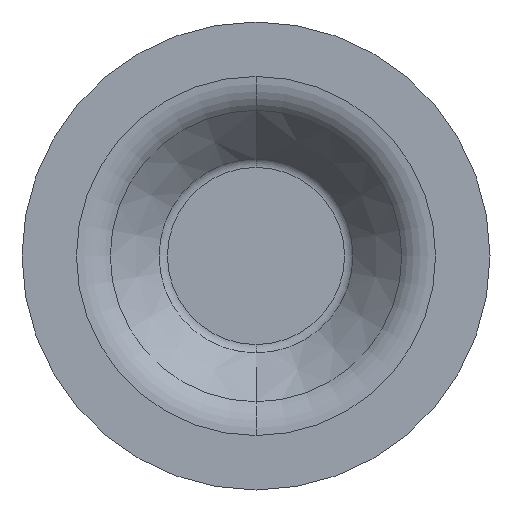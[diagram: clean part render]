
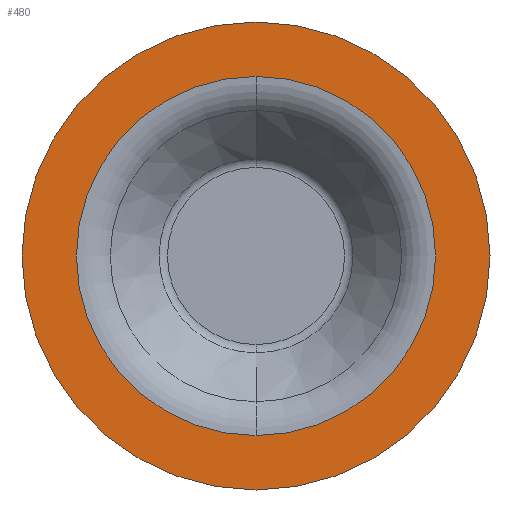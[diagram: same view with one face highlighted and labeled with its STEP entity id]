
A CAD part, front view. The second image highlights one B-rep face of the part: STEP entity #480.
In plain terms, the highlighted planar face has unit normal (0, -1, 0).
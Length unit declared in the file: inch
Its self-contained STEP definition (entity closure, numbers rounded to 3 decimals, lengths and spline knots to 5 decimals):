
#5 = VERTEX_POINT ( 'NONE', #354 ) ;
#8 = PLANE ( 'NONE',  #43 ) ;
#11 = DIRECTION ( 'NONE',  ( 0., 0., 1. ) ) ;
#24 = CARTESIAN_POINT ( 'NONE',  ( 0., -0.10126, 0.625 ) ) ;
#31 = DIRECTION ( 'NONE',  ( 0., 0., 1. ) ) ;
#43 = AXIS2_PLACEMENT_3D ( 'NONE', #184, #266, #171 ) ;
#64 = CARTESIAN_POINT ( 'NONE',  ( 0., -0.10126, 0. ) ) ;
#93 = CIRCLE ( 'NONE', #287, 0.47961 ) ;
#103 = CARTESIAN_POINT ( 'NONE',  ( 0., -0.10126, -0.625 ) ) ;
#113 = ORIENTED_EDGE ( 'NONE', *, *, #218, .F. ) ;
#131 = FACE_BOUND ( 'NONE', #540, .T. ) ;
#145 = DIRECTION ( 'NONE',  ( 0., 0., 1. ) ) ;
#157 = VERTEX_POINT ( 'NONE', #24 ) ;
#169 = CIRCLE ( 'NONE', #179, 0.625 ) ;
#171 = DIRECTION ( 'NONE',  ( 0., 0., -1. ) ) ;
#173 = EDGE_CURVE ( 'NONE', #157, #296, #169, .T. ) ;
#179 = AXIS2_PLACEMENT_3D ( 'NONE', #64, #240, #31 ) ;
#184 = CARTESIAN_POINT ( 'NONE',  ( -0.625, -0.10126, 0. ) ) ;
#218 = EDGE_CURVE ( 'NONE', #296, #157, #385, .T. ) ;
#226 = DIRECTION ( 'NONE',  ( 0., 1., 0. ) ) ;
#240 = DIRECTION ( 'NONE',  ( 0., 1., 0. ) ) ;
#247 = CARTESIAN_POINT ( 'NONE',  ( 0., -0.10126, 0.47961 ) ) ;
#266 = DIRECTION ( 'NONE',  ( 0., -1., 0. ) ) ;
#273 = DIRECTION ( 'NONE',  ( 0., 1., 0. ) ) ;
#287 = AXIS2_PLACEMENT_3D ( 'NONE', #388, #226, #11 ) ;
#290 = EDGE_CURVE ( 'NONE', #5, #419, #517, .T. ) ;
#296 = VERTEX_POINT ( 'NONE', #103 ) ;
#320 = DIRECTION ( 'NONE',  ( 0., 1., 0. ) ) ;
#354 = CARTESIAN_POINT ( 'NONE',  ( 0., -0.10126, -0.47961 ) ) ;
#370 = CARTESIAN_POINT ( 'NONE',  ( 0., -0.10126, 0. ) ) ;
#381 = ORIENTED_EDGE ( 'NONE', *, *, #290, .T. ) ;
#385 = CIRCLE ( 'NONE', #529, 0.625 ) ;
#388 = CARTESIAN_POINT ( 'NONE',  ( 0., -0.10126, 0. ) ) ;
#389 = EDGE_LOOP ( 'NONE', ( #519, #113 ) ) ;
#419 = VERTEX_POINT ( 'NONE', #247 ) ;
#438 = FACE_OUTER_BOUND ( 'NONE', #389, .T. ) ;
#454 = ORIENTED_EDGE ( 'NONE', *, *, #489, .T. ) ;
#480 = ADVANCED_FACE ( 'NONE', ( #131, #438 ), #8, .T. ) ;
#489 = EDGE_CURVE ( 'NONE', #419, #5, #93, .T. ) ;
#509 = AXIS2_PLACEMENT_3D ( 'NONE', #370, #320, #145 ) ;
#517 = CIRCLE ( 'NONE', #509, 0.47961 ) ;
#519 = ORIENTED_EDGE ( 'NONE', *, *, #173, .F. ) ;
#529 = AXIS2_PLACEMENT_3D ( 'NONE', #538, #273, #535 ) ;
#535 = DIRECTION ( 'NONE',  ( 0., 0., 1. ) ) ;
#538 = CARTESIAN_POINT ( 'NONE',  ( 0., -0.10126, 0. ) ) ;
#540 = EDGE_LOOP ( 'NONE', ( #454, #381 ) ) ;
